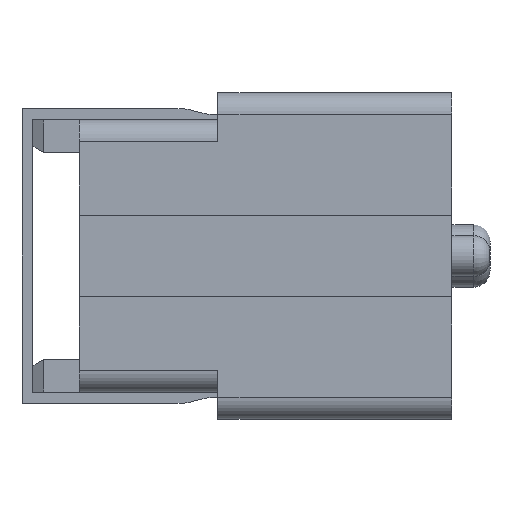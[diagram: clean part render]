
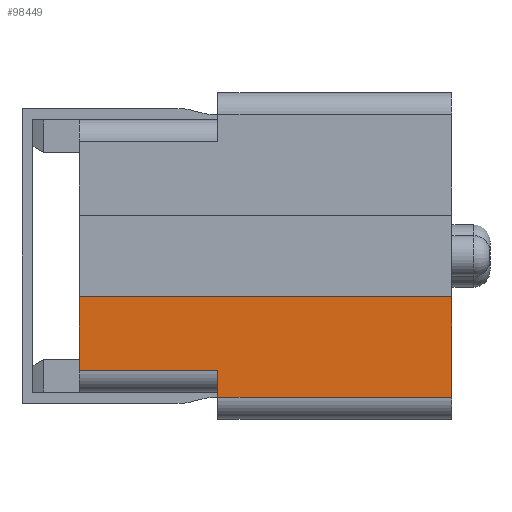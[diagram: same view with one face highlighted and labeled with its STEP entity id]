
A CAD part, left-side view. The second image highlights one B-rep face of the part: STEP entity #98449.
In plain terms, the highlighted planar face has unit normal (-1, 0, 0).
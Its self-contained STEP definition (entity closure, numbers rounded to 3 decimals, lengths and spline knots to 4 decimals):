
#1926 = VERTEX_POINT ( 'NONE', #146370 ) ;
#4757 = EDGE_CURVE ( 'NONE', #1926, #50393, #165692, .T. ) ;
#5543 = VECTOR ( 'NONE', #59406, 1000. ) ;
#9012 = CARTESIAN_POINT ( 'NONE',  ( -10.8325, -1.7432, -0.75 ) ) ;
#9641 = FACE_OUTER_BOUND ( 'NONE', #43391, .T. ) ;
#11195 = CARTESIAN_POINT ( 'NONE',  ( -10.8325, -4.7432, -2.6 ) ) ;
#11301 = CARTESIAN_POINT ( 'NONE',  ( -10.8325, 2.9568, -2.1 ) ) ;
#14110 = EDGE_CURVE ( 'NONE', #1926, #94645, #56018, .T. ) ;
#18372 = VECTOR ( 'NONE', #161027, 1000. ) ;
#22382 = EDGE_CURVE ( 'NONE', #147914, #94645, #27474, .T. ) ;
#25567 = VERTEX_POINT ( 'NONE', #42502 ) ;
#27474 = LINE ( 'NONE', #11301, #154419 ) ;
#28405 = DIRECTION ( 'NONE',  ( 0., 0., 1. ) ) ;
#35282 = CARTESIAN_POINT ( 'NONE',  ( -10.8325, 2.9568, -2.6 ) ) ;
#36948 = VECTOR ( 'NONE', #28405, 1000. ) ;
#39862 = DIRECTION ( 'NONE',  ( 0., -1., 0. ) ) ;
#42502 = CARTESIAN_POINT ( 'NONE',  ( -10.8325, -4.7432, -0.75 ) ) ;
#43192 = CARTESIAN_POINT ( 'NONE',  ( -10.8325, 2.1068, -0.75 ) ) ;
#43391 = EDGE_LOOP ( 'NONE', ( #135197, #181911, #82940, #85563, #151864, #164707 ) ) ;
#50393 = VERTEX_POINT ( 'NONE', #11195 ) ;
#56018 = LINE ( 'NONE', #100741, #36948 ) ;
#59182 = CARTESIAN_POINT ( 'NONE',  ( -10.8325, -4.7432, 3. ) ) ;
#59406 = DIRECTION ( 'NONE',  ( 0., 0., 1. ) ) ;
#66119 = LINE ( 'NONE', #9012, #137019 ) ;
#67684 = DIRECTION ( 'NONE',  ( 1., 0., 0. ) ) ;
#69548 = DIRECTION ( 'NONE',  ( 0., 1., 0. ) ) ;
#80973 = EDGE_CURVE ( 'NONE', #147914, #168154, #175538, .T. ) ;
#82940 = ORIENTED_EDGE ( 'NONE', *, *, #115365, .T. ) ;
#85563 = ORIENTED_EDGE ( 'NONE', *, *, #80973, .F. ) ;
#93348 = DIRECTION ( 'NONE',  ( 0., -1., 0. ) ) ;
#94645 = VERTEX_POINT ( 'NONE', #109570 ) ;
#97172 = PLANE ( 'NONE',  #143229 ) ;
#98449 = ADVANCED_FACE ( 'NONE', ( #9641 ), #97172, .F. ) ;
#100741 = CARTESIAN_POINT ( 'NONE',  ( -10.8325, -0.4432, -2.5 ) ) ;
#101076 = LINE ( 'NONE', #59182, #18372 ) ;
#109570 = CARTESIAN_POINT ( 'NONE',  ( -10.8325, -0.4432, -2.1 ) ) ;
#115365 = EDGE_CURVE ( 'NONE', #25567, #168154, #66119, .T. ) ;
#125141 = DIRECTION ( 'NONE',  ( 0., 1., 0. ) ) ;
#133634 = CARTESIAN_POINT ( 'NONE',  ( -10.8325, 2.1068, -3. ) ) ;
#135197 = ORIENTED_EDGE ( 'NONE', *, *, #4757, .T. ) ;
#137019 = VECTOR ( 'NONE', #125141, 1000. ) ;
#143229 = AXIS2_PLACEMENT_3D ( 'NONE', #169523, #67684, #69548 ) ;
#146370 = CARTESIAN_POINT ( 'NONE',  ( -10.8325, -0.4432, -2.6 ) ) ;
#147914 = VERTEX_POINT ( 'NONE', #175821 ) ;
#151864 = ORIENTED_EDGE ( 'NONE', *, *, #22382, .T. ) ;
#154419 = VECTOR ( 'NONE', #39862, 1000. ) ;
#158482 = EDGE_CURVE ( 'NONE', #25567, #50393, #101076, .T. ) ;
#161027 = DIRECTION ( 'NONE',  ( 0., 0., -1. ) ) ;
#164707 = ORIENTED_EDGE ( 'NONE', *, *, #14110, .F. ) ;
#165249 = VECTOR ( 'NONE', #93348, 1000. ) ;
#165692 = LINE ( 'NONE', #35282, #165249 ) ;
#168154 = VERTEX_POINT ( 'NONE', #43192 ) ;
#169523 = CARTESIAN_POINT ( 'NONE',  ( -10.8325, 2.9568, 3. ) ) ;
#175538 = LINE ( 'NONE', #133634, #5543 ) ;
#175821 = CARTESIAN_POINT ( 'NONE',  ( -10.8325, 2.1068, -2.1 ) ) ;
#181911 = ORIENTED_EDGE ( 'NONE', *, *, #158482, .F. ) ;
